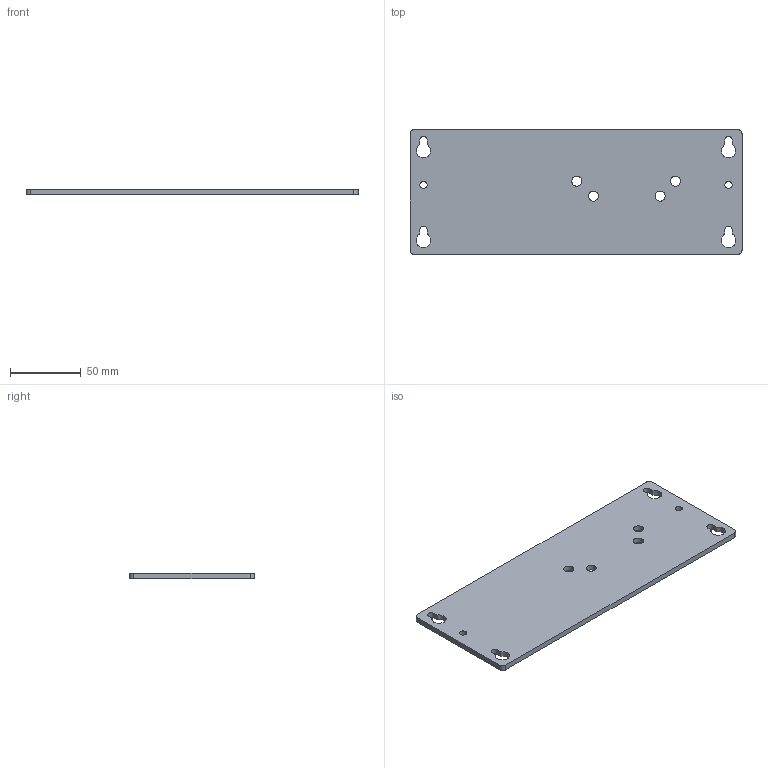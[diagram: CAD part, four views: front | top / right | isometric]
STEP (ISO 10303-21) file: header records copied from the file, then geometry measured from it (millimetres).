
FILE_DESCRIPTION((''),'2;1');
FILE_NAME('CU_PANEL_MOUNT_4SL','2013-03-21T',('jbuhisan'),(''),'PRO/ENGINEER BY PARAMETRIC TECHNOLOGY CORPORATION, 2011490','PRO/ENGINEER BY PARAMETRIC TECHNOLOGY CORPORATION, 2011490','');
FILE_SCHEMA(('CONFIG_CONTROL_DESIGN'));
Length unit declared in the file: inch
Products named in the file (1): CU_PANEL_MOUNT_4SL
Bounding box: 234.95 x 88.14 x 4 mm (x, y, z)
Volume: 80314.1 mm3; surface area: 43864.3 mm2
Topology: 1 solids, 1 shells, 38 faces, 108 edges, 72 vertices
Faces by surface type: cylinder 24, plane 14
Entity records: 1340 total; most frequent: DIRECTION 232, CARTESIAN_POINT 218, ORIENTED_EDGE 216, EDGE_CURVE 108, AXIS2_PLACEMENT_3D 86, VERTEX_POINT 72, VECTOR 60, LINE 60
